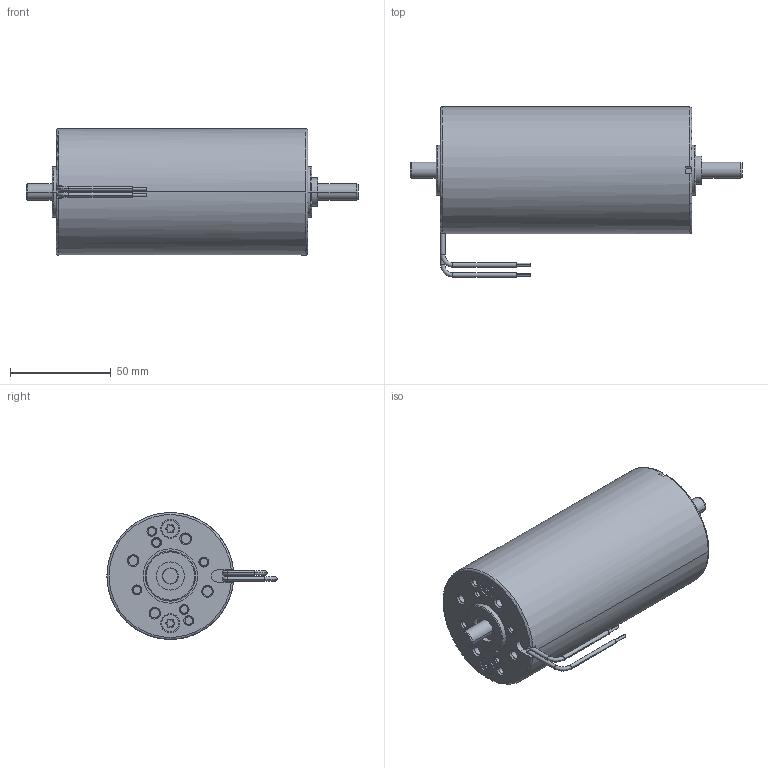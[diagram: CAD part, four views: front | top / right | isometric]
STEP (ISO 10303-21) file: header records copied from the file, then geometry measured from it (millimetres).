
FILE_DESCRIPTION((''),'2;1');
FILE_NAME('GR63X55_AS8X25_NS0','2005-06-20T',('Carsten.Lang'),(''),'PRO/ENGINEER BY PARAMETRIC TECHNOLOGY CORPORATION, 2003490','PRO/ENGINEER BY PARAMETRIC TECHNOLOGY CORPORATION, 2003490','');
FILE_SCHEMA(('AUTOMOTIVE_DESIGN_CC2 { 1 2 10303 214 -1 1 5 2 }'));
Length unit declared in the file: millimetre
Products named in the file (1): GR63X55_AS8X25_NS0
Bounding box: 165 x 84.55 x 62.99 mm (x, y, z)
Volume: 390114 mm3; surface area: 38699.5 mm2
Topology: 1 solids, 21 shells, 312 faces, 721 edges, 468 vertices
Faces by surface type: cylinder 163, plane 78, cone 56, torus 15
Entity records: 9469 total; most frequent: DIRECTION 1790, CARTESIAN_POINT 1626, ORIENTED_EDGE 1362, AXIS2_PLACEMENT_3D 774, EDGE_CURVE 721, VERTEX_POINT 468, CIRCLE 461, EDGE_LOOP 369
